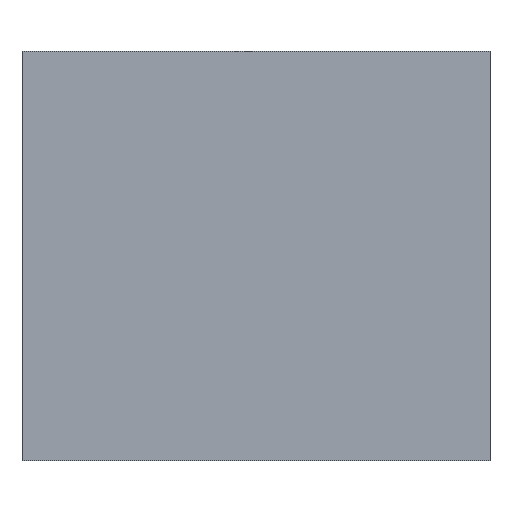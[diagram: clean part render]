
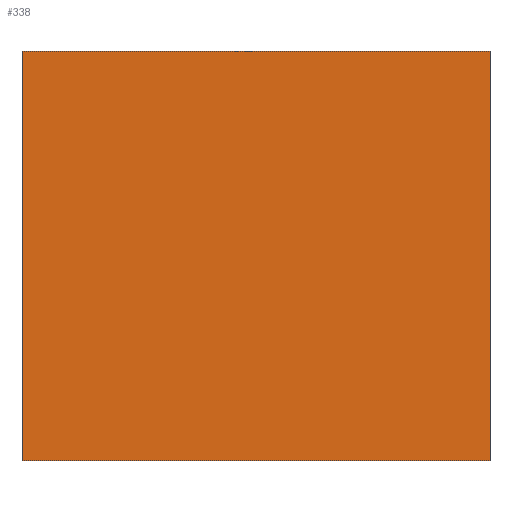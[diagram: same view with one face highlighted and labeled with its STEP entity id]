
A CAD part, top view. The second image highlights one B-rep face of the part: STEP entity #338.
In plain terms, the highlighted planar face has unit normal (0, 0, 1).
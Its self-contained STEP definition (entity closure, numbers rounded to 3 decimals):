
#24 = VERTEX_POINT('',#25);
#25 = CARTESIAN_POINT('',(-8.,-43.,22.2));
#32 = PLANE('',#33);
#33 = AXIS2_PLACEMENT_3D('',#34,#35,#36);
#34 = CARTESIAN_POINT('',(-8.,-43.,21.));
#35 = DIRECTION('',(1.,0.,0.));
#36 = DIRECTION('',(0.,0.,1.));
#44 = PLANE('',#45);
#45 = AXIS2_PLACEMENT_3D('',#46,#47,#48);
#46 = CARTESIAN_POINT('',(-8.,-43.,21.));
#47 = DIRECTION('',(0.,1.,0.));
#48 = DIRECTION('',(0.,0.,1.));
#85 = VERTEX_POINT('',#86);
#86 = CARTESIAN_POINT('',(-8.,-29.,22.2));
#100 = PLANE('',#101);
#101 = AXIS2_PLACEMENT_3D('',#102,#103,#104);
#102 = CARTESIAN_POINT('',(-8.,-29.,21.));
#103 = DIRECTION('',(0.,1.,0.));
#104 = DIRECTION('',(0.,0.,1.));
#112 = EDGE_CURVE('',#24,#85,#113,.T.);
#113 = SURFACE_CURVE('',#114,(#118,#125),.PCURVE_S1.);
#114 = LINE('',#115,#116);
#115 = CARTESIAN_POINT('',(-8.,-43.,22.2));
#116 = VECTOR('',#117,1.);
#117 = DIRECTION('',(0.,1.,0.));
#118 = PCURVE('',#32,#119);
#119 = DEFINITIONAL_REPRESENTATION('',(#120),#124);
#120 = LINE('',#121,#122);
#121 = CARTESIAN_POINT('',(1.2,0.));
#122 = VECTOR('',#123,1.);
#123 = DIRECTION('',(0.,-1.));
#124 = ( GEOMETRIC_REPRESENTATION_CONTEXT(2) 
PARAMETRIC_REPRESENTATION_CONTEXT() REPRESENTATION_CONTEXT('2D SPACE',''
  ) );
#125 = PCURVE('',#126,#131);
#126 = PLANE('',#127);
#127 = AXIS2_PLACEMENT_3D('',#128,#129,#130);
#128 = CARTESIAN_POINT('',(-8.,-43.,22.2));
#129 = DIRECTION('',(0.,0.,1.));
#130 = DIRECTION('',(1.,0.,0.));
#131 = DEFINITIONAL_REPRESENTATION('',(#132),#136);
#132 = LINE('',#133,#134);
#133 = CARTESIAN_POINT('',(0.,0.));
#134 = VECTOR('',#135,1.);
#135 = DIRECTION('',(0.,1.));
#136 = ( GEOMETRIC_REPRESENTATION_CONTEXT(2) 
PARAMETRIC_REPRESENTATION_CONTEXT() REPRESENTATION_CONTEXT('2D SPACE',''
  ) );
#144 = VERTEX_POINT('',#145);
#145 = CARTESIAN_POINT('',(8.,-43.,22.2));
#152 = PLANE('',#153);
#153 = AXIS2_PLACEMENT_3D('',#154,#155,#156);
#154 = CARTESIAN_POINT('',(8.,-43.,21.));
#155 = DIRECTION('',(1.,0.,0.));
#156 = DIRECTION('',(0.,0.,1.));
#195 = VERTEX_POINT('',#196);
#196 = CARTESIAN_POINT('',(8.,-29.,22.2));
#217 = EDGE_CURVE('',#144,#195,#218,.T.);
#218 = SURFACE_CURVE('',#219,(#223,#230),.PCURVE_S1.);
#219 = LINE('',#220,#221);
#220 = CARTESIAN_POINT('',(8.,-43.,22.2));
#221 = VECTOR('',#222,1.);
#222 = DIRECTION('',(0.,1.,0.));
#223 = PCURVE('',#152,#224);
#224 = DEFINITIONAL_REPRESENTATION('',(#225),#229);
#225 = LINE('',#226,#227);
#226 = CARTESIAN_POINT('',(1.2,0.));
#227 = VECTOR('',#228,1.);
#228 = DIRECTION('',(0.,-1.));
#229 = ( GEOMETRIC_REPRESENTATION_CONTEXT(2) 
PARAMETRIC_REPRESENTATION_CONTEXT() REPRESENTATION_CONTEXT('2D SPACE',''
  ) );
#230 = PCURVE('',#126,#231);
#231 = DEFINITIONAL_REPRESENTATION('',(#232),#236);
#232 = LINE('',#233,#234);
#233 = CARTESIAN_POINT('',(16.,0.));
#234 = VECTOR('',#235,1.);
#235 = DIRECTION('',(0.,1.));
#236 = ( GEOMETRIC_REPRESENTATION_CONTEXT(2) 
PARAMETRIC_REPRESENTATION_CONTEXT() REPRESENTATION_CONTEXT('2D SPACE',''
  ) );
#263 = EDGE_CURVE('',#24,#144,#264,.T.);
#264 = SURFACE_CURVE('',#265,(#269,#276),.PCURVE_S1.);
#265 = LINE('',#266,#267);
#266 = CARTESIAN_POINT('',(-8.,-43.,22.2));
#267 = VECTOR('',#268,1.);
#268 = DIRECTION('',(1.,0.,0.));
#269 = PCURVE('',#44,#270);
#270 = DEFINITIONAL_REPRESENTATION('',(#271),#275);
#271 = LINE('',#272,#273);
#272 = CARTESIAN_POINT('',(1.2,0.));
#273 = VECTOR('',#274,1.);
#274 = DIRECTION('',(0.,1.));
#275 = ( GEOMETRIC_REPRESENTATION_CONTEXT(2) 
PARAMETRIC_REPRESENTATION_CONTEXT() REPRESENTATION_CONTEXT('2D SPACE',''
  ) );
#276 = PCURVE('',#126,#277);
#277 = DEFINITIONAL_REPRESENTATION('',(#278),#282);
#278 = LINE('',#279,#280);
#279 = CARTESIAN_POINT('',(0.,0.));
#280 = VECTOR('',#281,1.);
#281 = DIRECTION('',(1.,0.));
#282 = ( GEOMETRIC_REPRESENTATION_CONTEXT(2) 
PARAMETRIC_REPRESENTATION_CONTEXT() REPRESENTATION_CONTEXT('2D SPACE',''
  ) );
#310 = EDGE_CURVE('',#85,#195,#311,.T.);
#311 = SURFACE_CURVE('',#312,(#316,#323),.PCURVE_S1.);
#312 = LINE('',#313,#314);
#313 = CARTESIAN_POINT('',(-8.,-29.,22.2));
#314 = VECTOR('',#315,1.);
#315 = DIRECTION('',(1.,0.,0.));
#316 = PCURVE('',#100,#317);
#317 = DEFINITIONAL_REPRESENTATION('',(#318),#322);
#318 = LINE('',#319,#320);
#319 = CARTESIAN_POINT('',(1.2,0.));
#320 = VECTOR('',#321,1.);
#321 = DIRECTION('',(0.,1.));
#322 = ( GEOMETRIC_REPRESENTATION_CONTEXT(2) 
PARAMETRIC_REPRESENTATION_CONTEXT() REPRESENTATION_CONTEXT('2D SPACE',''
  ) );
#323 = PCURVE('',#126,#324);
#324 = DEFINITIONAL_REPRESENTATION('',(#325),#329);
#325 = LINE('',#326,#327);
#326 = CARTESIAN_POINT('',(0.,14.));
#327 = VECTOR('',#328,1.);
#328 = DIRECTION('',(1.,0.));
#329 = ( GEOMETRIC_REPRESENTATION_CONTEXT(2) 
PARAMETRIC_REPRESENTATION_CONTEXT() REPRESENTATION_CONTEXT('2D SPACE',''
  ) );
#338 = ADVANCED_FACE('',(#339),#126,.T.);
#339 = FACE_BOUND('',#340,.T.);
#340 = EDGE_LOOP('',(#341,#342,#343,#344));
#341 = ORIENTED_EDGE('',*,*,#112,.F.);
#342 = ORIENTED_EDGE('',*,*,#263,.T.);
#343 = ORIENTED_EDGE('',*,*,#217,.T.);
#344 = ORIENTED_EDGE('',*,*,#310,.F.);
